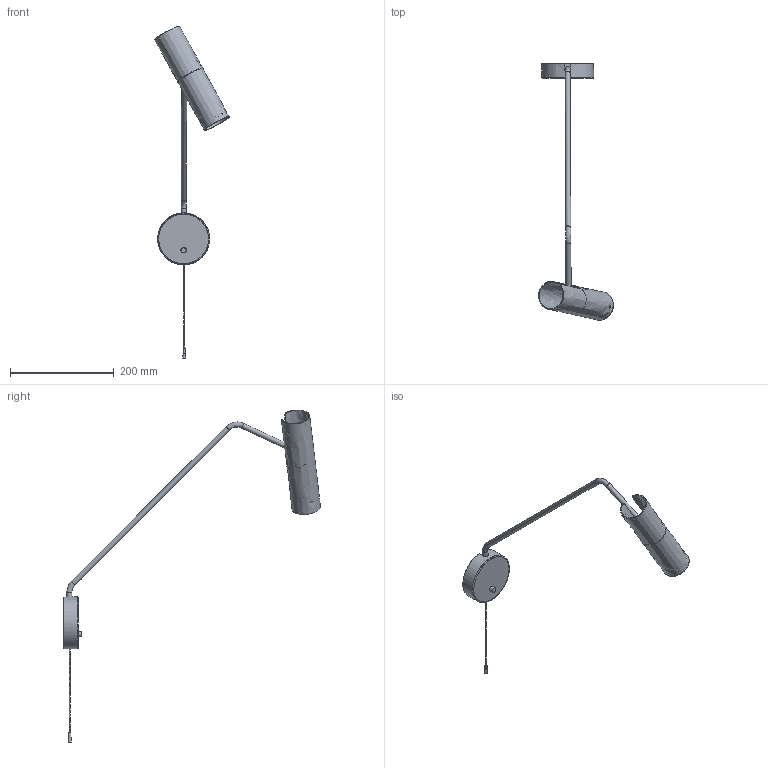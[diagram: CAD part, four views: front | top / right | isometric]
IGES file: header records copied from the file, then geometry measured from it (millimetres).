
Start section: SolidWorks IGES file using NURBS representation for surfaces
Global section: file name: Z:\Modele 3D_WWW\_KOLEKCJE WWW\EYE-SUPER\EYE-SUPER-6487-6494-6501\EYE-SUPER-6487-6494-6501.IGS; native system: SolidWorks 2021; preprocessor: SolidWorks 2021; author: gabriela.tworek; date: 220322.132816; units: millimetre
Bounding box: 143.99 x 494.78 x 639.8 mm (x, y, z)
Surface area: 121258.4 mm2 (no closed solid volume)
Topology: 0 solids, 0 shells, 41 faces, 180 edges, 163 vertices
Faces by surface type: bspline 41
